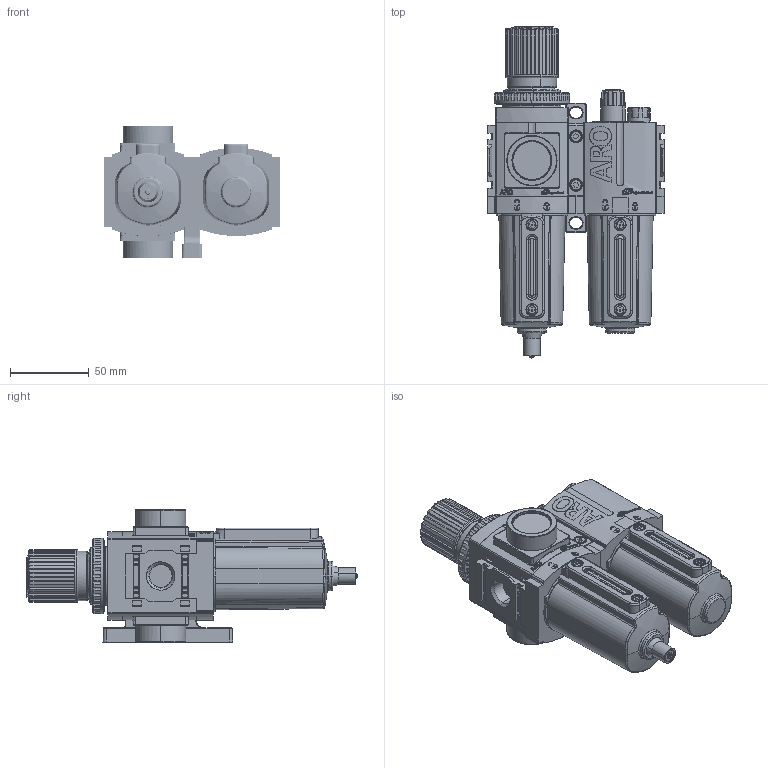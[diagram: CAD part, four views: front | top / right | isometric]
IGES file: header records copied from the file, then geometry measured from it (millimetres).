
Global section: file name: C:\Documents and Settings\szeedyk\Desktop\C382X1-61X_01.igs; native system: NX V4.0; preprocessor: UGS NX IGES V4.0; date: 20090204.110226; units: inch
Bounding box: 112 x 210.96 x 84.1 mm (x, y, z)
Surface area: 91612.8 mm2 (no closed solid volume)
Topology: 0 solids, 0 shells, 3611 faces, 20539 edges, 20526 vertices
Faces by surface type: bspline 3611
